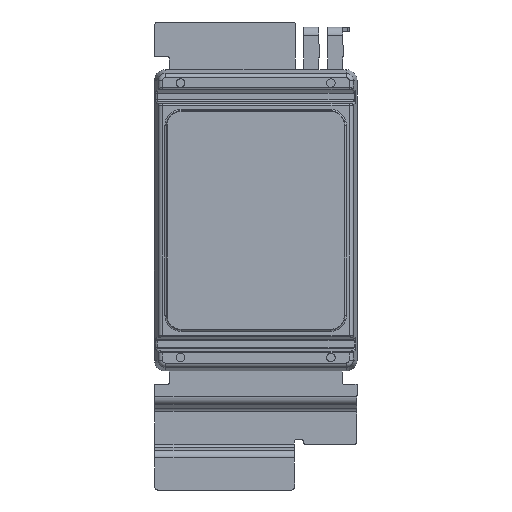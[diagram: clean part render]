
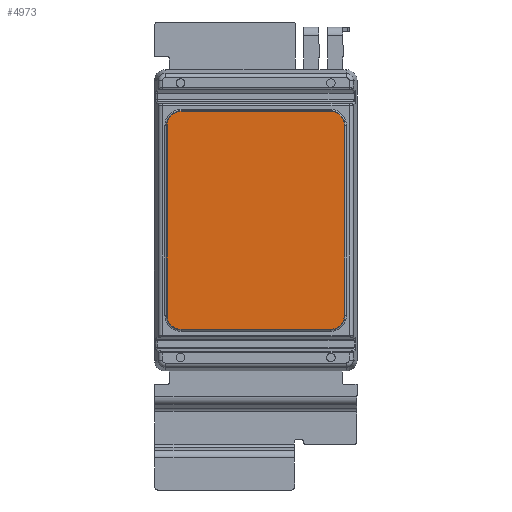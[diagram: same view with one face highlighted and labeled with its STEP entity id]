
A CAD part, front view. The second image highlights one B-rep face of the part: STEP entity #4973.
In plain terms, the highlighted planar face has unit normal (0, -1, 0).
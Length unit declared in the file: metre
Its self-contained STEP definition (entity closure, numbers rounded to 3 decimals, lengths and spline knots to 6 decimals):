
#166 = AXIS2_PLACEMENT_3D ( 'NONE', #7042, #10792, #6800 ) ;
#339 = ORIENTED_EDGE ( 'NONE', *, *, #419, .T. ) ;
#419 = EDGE_CURVE ( 'NONE', #1751, #6738, #1795, .T. ) ;
#598 = ORIENTED_EDGE ( 'NONE', *, *, #9725, .T. ) ;
#616 = DIRECTION ( 'NONE',  ( 0., 0., 1. ) ) ;
#936 = CARTESIAN_POINT ( 'NONE',  ( 0.00695, 0., 0.00885 ) ) ;
#1217 = ORIENTED_EDGE ( 'NONE', *, *, #1383, .T. ) ;
#1241 = VECTOR ( 'NONE', #11384, 1. ) ;
#1383 = EDGE_CURVE ( 'NONE', #2614, #9603, #4481, .T. ) ;
#1436 = DIRECTION ( 'NONE',  ( 1., 0., 0. ) ) ;
#1544 = CARTESIAN_POINT ( 'NONE',  ( -0.00695, 0., -0.00885 ) ) ;
#1751 = VERTEX_POINT ( 'NONE', #9152 ) ;
#1795 = CIRCLE ( 'NONE', #8073, 0.001324 ) ;
#2456 = VERTEX_POINT ( 'NONE', #4643 ) ;
#2614 = VERTEX_POINT ( 'NONE', #10174 ) ;
#2679 = CARTESIAN_POINT ( 'NONE',  ( 0.00695, 0., 0.010174 ) ) ;
#2870 = DIRECTION ( 'NONE',  ( 0., 0., 1. ) ) ;
#2876 = ORIENTED_EDGE ( 'NONE', *, *, #8842, .F. ) ;
#3290 = DIRECTION ( 'NONE',  ( 0., 0., -1. ) ) ;
#3490 = DIRECTION ( 'NONE',  ( 0., -1., 0. ) ) ;
#3961 = DIRECTION ( 'NONE',  ( 0., -1., 0. ) ) ;
#4116 = LINE ( 'NONE', #7128, #6746 ) ;
#4414 = DIRECTION ( 'NONE',  ( 0., -1., 0. ) ) ;
#4466 = CARTESIAN_POINT ( 'NONE',  ( 0.008274, 0., 0.01025 ) ) ;
#4481 = CIRCLE ( 'NONE', #166, 0.001324 ) ;
#4535 = CARTESIAN_POINT ( 'NONE',  ( 0.00695, 0., -0.00885 ) ) ;
#4643 = CARTESIAN_POINT ( 'NONE',  ( -0.00695, 0., -0.010174 ) ) ;
#4742 = VECTOR ( 'NONE', #5572, 1. ) ;
#4867 = EDGE_LOOP ( 'NONE', ( #2876, #5832, #5485, #598, #9677, #339, #5376, #1217 ) ) ;
#4973 = ADVANCED_FACE ( 'NONE', ( #11181 ), #7546, .F. ) ;
#5376 = ORIENTED_EDGE ( 'NONE', *, *, #7408, .F. ) ;
#5485 = ORIENTED_EDGE ( 'NONE', *, *, #6771, .F. ) ;
#5535 = DIRECTION ( 'NONE',  ( 0., 0., 1. ) ) ;
#5572 = DIRECTION ( 'NONE',  ( -1., 0., 0. ) ) ;
#5619 = LINE ( 'NONE', #11448, #1241 ) ;
#5719 = CIRCLE ( 'NONE', #11413, 0.001324 ) ;
#5832 = ORIENTED_EDGE ( 'NONE', *, *, #9706, .T. ) ;
#5923 = CARTESIAN_POINT ( 'NONE',  ( 0.00695, 0., -0.010174 ) ) ;
#6419 = CARTESIAN_POINT ( 'NONE',  ( -0.00835, 0., -0.010174 ) ) ;
#6617 = CARTESIAN_POINT ( 'NONE',  ( 0., 0., 0. ) ) ;
#6669 = DIRECTION ( 'NONE',  ( 0., 1., 0. ) ) ;
#6738 = VERTEX_POINT ( 'NONE', #2679 ) ;
#6746 = VECTOR ( 'NONE', #1436, 1. ) ;
#6762 = VERTEX_POINT ( 'NONE', #12018 ) ;
#6771 = EDGE_CURVE ( 'NONE', #6833, #2456, #7410, .T. ) ;
#6800 = DIRECTION ( 'NONE',  ( 0., 0., 1. ) ) ;
#6833 = VERTEX_POINT ( 'NONE', #5923 ) ;
#7042 = CARTESIAN_POINT ( 'NONE',  ( -0.00695, 0., 0.00885 ) ) ;
#7128 = CARTESIAN_POINT ( 'NONE',  ( -0.00835, 0., 0.010174 ) ) ;
#7290 = AXIS2_PLACEMENT_3D ( 'NONE', #1544, #4414, #8170 ) ;
#7408 = EDGE_CURVE ( 'NONE', #2614, #6738, #4116, .T. ) ;
#7410 = LINE ( 'NONE', #6419, #4742 ) ;
#7546 = PLANE ( 'NONE',  #11812 ) ;
#7872 = EDGE_CURVE ( 'NONE', #1751, #6762, #11835, .T. ) ;
#8073 = AXIS2_PLACEMENT_3D ( 'NONE', #936, #3961, #5535 ) ;
#8170 = DIRECTION ( 'NONE',  ( 0., 0., 1. ) ) ;
#8842 = EDGE_CURVE ( 'NONE', #10275, #9603, #5619, .T. ) ;
#9152 = CARTESIAN_POINT ( 'NONE',  ( 0.008274, 0., 0.00885 ) ) ;
#9161 = CARTESIAN_POINT ( 'NONE',  ( -0.008274, 0., 0.00885 ) ) ;
#9603 = VERTEX_POINT ( 'NONE', #9161 ) ;
#9677 = ORIENTED_EDGE ( 'NONE', *, *, #7872, .F. ) ;
#9706 = EDGE_CURVE ( 'NONE', #10275, #2456, #10656, .T. ) ;
#9725 = EDGE_CURVE ( 'NONE', #6833, #6762, #5719, .T. ) ;
#10174 = CARTESIAN_POINT ( 'NONE',  ( -0.00695, 0., 0.010174 ) ) ;
#10275 = VERTEX_POINT ( 'NONE', #11060 ) ;
#10656 = CIRCLE ( 'NONE', #7290, 0.001324 ) ;
#10792 = DIRECTION ( 'NONE',  ( 0., -1., 0. ) ) ;
#11060 = CARTESIAN_POINT ( 'NONE',  ( -0.008274, 0., -0.00885 ) ) ;
#11181 = FACE_OUTER_BOUND ( 'NONE', #4867, .T. ) ;
#11294 = VECTOR ( 'NONE', #3290, 1. ) ;
#11384 = DIRECTION ( 'NONE',  ( 0., 0., 1. ) ) ;
#11413 = AXIS2_PLACEMENT_3D ( 'NONE', #4535, #3490, #616 ) ;
#11448 = CARTESIAN_POINT ( 'NONE',  ( -0.008274, 0., 0.01025 ) ) ;
#11812 = AXIS2_PLACEMENT_3D ( 'NONE', #6617, #6669, #2870 ) ;
#11835 = LINE ( 'NONE', #4466, #11294 ) ;
#12018 = CARTESIAN_POINT ( 'NONE',  ( 0.008274, 0., -0.00885 ) ) ;
